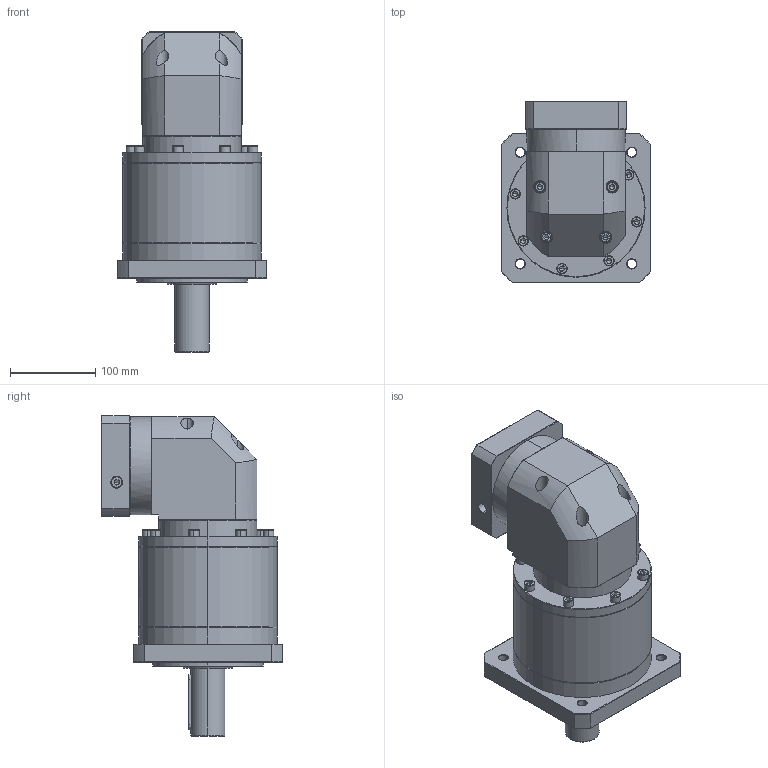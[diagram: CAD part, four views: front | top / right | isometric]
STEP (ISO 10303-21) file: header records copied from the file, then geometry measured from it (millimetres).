
FILE_DESCRIPTION (( 'STEP AP214' ), '1' );
FILE_NAME ('ZFR160A-D40-L3-P2-19-95-115-M6.step', '2023-09-03T09:41:29', ( '' ), ( '' ), 'SwSTEP 2.0', 'SolidWorks 2016', '' );
FILE_SCHEMA (( 'AUTOMOTIVE_DESIGN' ));
Length unit declared in the file: millimetre
Products named in the file (1): ZFR160A-D40-L3-P2-19-95-115-M6
Bounding box: 175 x 212.4 x 376.2 mm (x, y, z)
Volume: 5548324.9 mm3; surface area: 350839.7 mm2
Topology: 6 solids, 6 shells, 2460 faces, 6435 edges, 4101 vertices
Faces by surface type: plane 1145, cylinder 484, bspline 414, cone 371, torus 46
Entity records: 133357 total; most frequent: CARTESIAN_POINT 51111, ORIENTED_EDGE 12762, DIRECTION 9716, EDGE_CURVE 6381, VERTEX_POINT 4101, VECTOR 3424, LINE 3424, AXIS2_PLACEMENT_3D 3146
